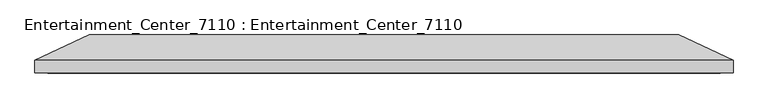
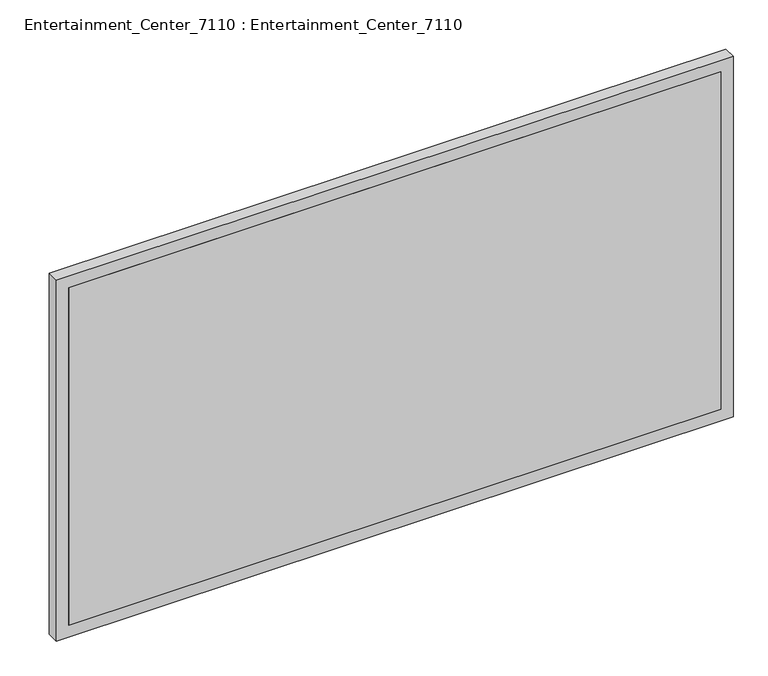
"""IFC4 building model written with IfcOpenShell, lengths in millimetres: furniture geometry, Entertainment_Center_7110 : Entertainment_Center_7110."""

from ifc_helpers import new_model, si_unit, frame, origin, place, context, project, spatial, polyline, outline, extrude, faceted_brep, source, transform, mapped, element, save


def entertainment_center_7110_entertainment_center_7110_d1725c8a(model_context):
    return source(origin(), model_context, "Body", "SolidModel", [
        extrude(outline(polyline([(600.6446291, 226.5723366), (-745.5553709, 226.5723366), (-745.5553709, 237.7987555), (600.6446291, 237.7987555), (600.6446291, 226.5723366)])), frame((0.0, 0.0, 1032.978358), z_axis=(0.0, 0.0, 1.0), x_axis=(1.0, 0.0, 0.0)), (0.0, 0.0, 1.0), 736.6),
        faceted_brep([(626.0446291, 226.5723366, 1794.978358), (-770.9553709, 226.5723366, 1794.978358), (-770.9553709, 226.5723366, 1007.578358), (626.0446291, 226.5723366, 1007.578358), (600.6446291, 226.5723366, 1769.578358), (600.6446291, 226.5723366, 1032.978358), (-745.5553709, 226.5723366, 1032.978358), (-745.5553709, 226.5723366, 1769.578358), (517.1036775, 302.7723366, 1686.0374064), (517.1036775, 302.7723366, 1116.5193096), (-662.0144194, 302.7723366, 1116.5193096), (-662.0144194, 302.7723366, 1686.0374064), (626.0446291, 251.9723366, 1794.978358), (-770.9553709, 251.9723366, 1794.978358), (-770.9553709, 251.9723366, 1007.578358), (626.0446291, 251.9723366, 1007.578358), (600.6446291, 237.7987555, 1769.578358), (-745.5553709, 237.7987555, 1769.578358), (-745.5553709, 237.7987555, 1032.978358), (600.6446291, 237.7987555, 1032.978358)], [[[0, 1, 2, 3], [4, 5, 6, 7]], [[8, 9, 10, 11]], [[1, 0, 12, 13]], [[2, 1, 13, 14]], [[3, 2, 14, 15]], [[0, 3, 15, 12]], [[15, 9, 8, 12]], [[9, 15, 14, 10]], [[10, 14, 13, 11]], [[12, 8, 11, 13]], [[16, 17, 18, 19]], [[16, 19, 5, 4]], [[19, 18, 6, 5]], [[18, 17, 7, 6]], [[17, 16, 4, 7]]]),
    ])


if __name__ == "__main__":
    model = new_model("IFC4")
    model_context = context("Model", 3, world=origin())
    ifc_project = project(units=[si_unit("LENGTHUNIT", "METRE", prefix="MILLI")], contexts=[model_context])
    site = spatial("IfcSite", under=ifc_project)
    building = spatial("IfcBuilding", under=site)
    placement = place(None, origin())
    entertainment_center_7110_entertainment_center_7110_shape = entertainment_center_7110_entertainment_center_7110_d1725c8a(model_context)
    element("IfcFurniture", 1, ObjectType="Entertainment_Center_7110 : Entertainment_Center_7110", at=placement, inside=building, context=model_context, shape_type="MappedRepresentation", body=[
        mapped(entertainment_center_7110_entertainment_center_7110_shape, transform((0.0, 0.0, 0.0), x_axis=(1.0, 0.0, 0.0), y_axis=(0.0, 1.0, 0.0), z_axis=(0.0, 0.0, 1.0))),
    ])
    save(model, "model.ifc")
